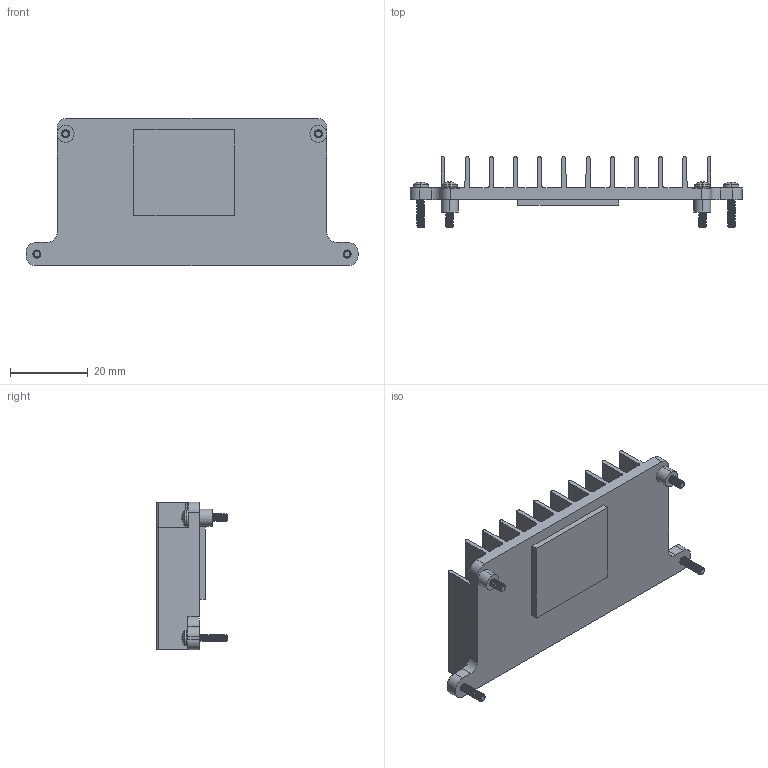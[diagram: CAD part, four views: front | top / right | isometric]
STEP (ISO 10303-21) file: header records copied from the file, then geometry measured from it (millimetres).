
FILE_DESCRIPTION (( 'STEP AP214' ), '1' );
FILE_NAME ('TDX1094 - 08-Jul-2025.STEP', '2025-07-08T08:40:54', ( '' ), ( '' ), 'SwSTEP 2.0', 'SolidWorks 2022', '' );
FILE_SCHEMA (( 'AUTOMOTIVE_DESIGN' ));
Length unit declared in the file: millimetre
Products named in the file (4): TDX001; TM091; TDX1094 - 08-Jul-2025; 92000A017_92000A017
Assembly tree (6 placements, depth 2):
  TDX1094 - 08-Jul-2025
    TDX001
    TM091
    92000A017_92000A017  x4
Bounding box: 85.6 x 18.15 x 38 mm (x, y, z)
Volume: 13017.5 mm3; surface area: 15062.3 mm2
Topology: 6 solids, 6 shells, 616 faces, 1730 edges, 1130 vertices
Faces by surface type: cylinder 312, plane 144, bspline 68, cone 60, torus 24, sphere 8
Entity records: 11992 total; most frequent: CARTESIAN_POINT 5437, ORIENTED_EDGE 1468, DIRECTION 1251, EDGE_CURVE 734, VERTEX_POINT 482, AXIS2_PLACEMENT_3D 444, VECTOR 363, LINE 363
